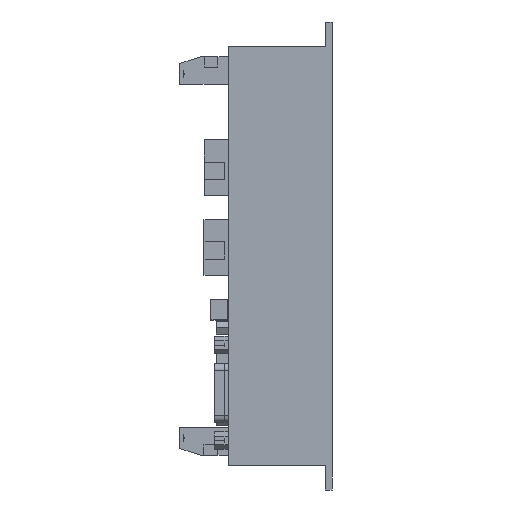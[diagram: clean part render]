
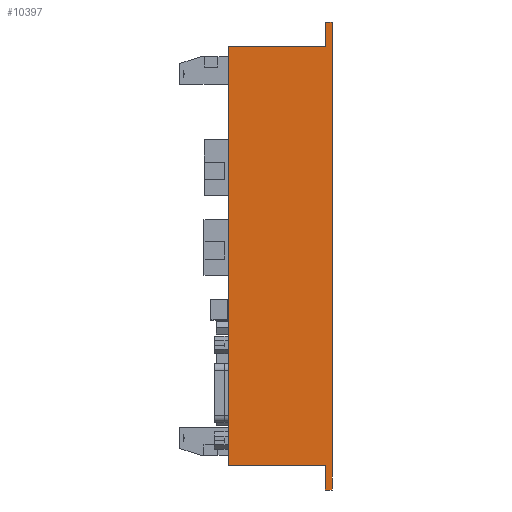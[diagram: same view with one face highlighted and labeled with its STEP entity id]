
A CAD part, left-side view. The second image highlights one B-rep face of the part: STEP entity #10397.
In plain terms, the highlighted planar face has unit normal (-1, 0, 0).
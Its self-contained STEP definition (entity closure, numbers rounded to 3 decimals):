
#60 = FACE_OUTER_BOUND ( 'NONE', #25728, .T. ) ;
#991 = ORIENTED_EDGE ( 'NONE', *, *, #7865, .F. ) ;
#2054 = CARTESIAN_POINT ( 'NONE',  ( 0., 30., 68.703 ) ) ;
#2622 = DIRECTION ( 'NONE',  ( 0., 0., 1. ) ) ;
#3629 = VECTOR ( 'NONE', #9762, 1000. ) ;
#3753 = ORIENTED_EDGE ( 'NONE', *, *, #74189, .F. ) ;
#4471 = DIRECTION ( 'NONE',  ( 0., 1., 0. ) ) ;
#6084 = CARTESIAN_POINT ( 'NONE',  ( 0., 2., -52.297 ) ) ;
#7865 = EDGE_CURVE ( 'NONE', #19587, #60799, #73935, .T. ) ;
#9762 = DIRECTION ( 'NONE',  ( 0., -1., 0. ) ) ;
#10010 = CARTESIAN_POINT ( 'NONE',  ( 0., 30., 68.703 ) ) ;
#10397 = ADVANCED_FACE ( 'NONE', ( #60 ), #12854, .F. ) ;
#10668 = EDGE_CURVE ( 'NONE', #13436, #55992, #63475, .T. ) ;
#12265 = VECTOR ( 'NONE', #17618, 1000. ) ;
#12854 = PLANE ( 'NONE',  #65740 ) ;
#12898 = VERTEX_POINT ( 'NONE', #48987 ) ;
#13206 = VECTOR ( 'NONE', #37851, 1000. ) ;
#13307 = VECTOR ( 'NONE', #2622, 1000. ) ;
#13436 = VERTEX_POINT ( 'NONE', #2054 ) ;
#14317 = CARTESIAN_POINT ( 'NONE',  ( 0., 2., -52.297 ) ) ;
#14566 = DIRECTION ( 'NONE',  ( 0., 1., 0. ) ) ;
#15068 = LINE ( 'NONE', #49552, #13206 ) ;
#15267 = LINE ( 'NONE', #14317, #57791 ) ;
#17618 = DIRECTION ( 'NONE',  ( 0., -1., 0. ) ) ;
#18710 = DIRECTION ( 'NONE',  ( 0., 0., -1. ) ) ;
#19587 = VERTEX_POINT ( 'NONE', #54146 ) ;
#23005 = VERTEX_POINT ( 'NONE', #6084 ) ;
#25728 = EDGE_LOOP ( 'NONE', ( #49735, #63826, #37759, #73403, #29834, #3753, #991, #37979 ) ) ;
#27639 = VECTOR ( 'NONE', #4471, 1000. ) ;
#27695 = LINE ( 'NONE', #46429, #12265 ) ;
#29834 = ORIENTED_EDGE ( 'NONE', *, *, #39655, .F. ) ;
#32308 = LINE ( 'NONE', #40513, #49548 ) ;
#33322 = CARTESIAN_POINT ( 'NONE',  ( 0., 0., -59.297 ) ) ;
#33376 = EDGE_CURVE ( 'NONE', #59054, #13436, #45923, .T. ) ;
#35289 = CARTESIAN_POINT ( 'NONE',  ( 0., 0., 75.703 ) ) ;
#37277 = CARTESIAN_POINT ( 'NONE',  ( 0., 30., -52.297 ) ) ;
#37759 = ORIENTED_EDGE ( 'NONE', *, *, #10668, .F. ) ;
#37851 = DIRECTION ( 'NONE',  ( 0., 0., -1. ) ) ;
#37979 = ORIENTED_EDGE ( 'NONE', *, *, #45133, .F. ) ;
#39655 = EDGE_CURVE ( 'NONE', #23005, #59054, #15267, .T. ) ;
#40513 = CARTESIAN_POINT ( 'NONE',  ( 0., 2., 68.703 ) ) ;
#45133 = EDGE_CURVE ( 'NONE', #67223, #19587, #15068, .T. ) ;
#45809 = LINE ( 'NONE', #46126, #74919 ) ;
#45923 = LINE ( 'NONE', #37277, #13307 ) ;
#46126 = CARTESIAN_POINT ( 'NONE',  ( 0., 2., -59.297 ) ) ;
#46361 = DIRECTION ( 'NONE',  ( 0., 0., 1. ) ) ;
#46429 = CARTESIAN_POINT ( 'NONE',  ( 0., 2., 75.703 ) ) ;
#48987 = CARTESIAN_POINT ( 'NONE',  ( 0., 2., 75.703 ) ) ;
#49548 = VECTOR ( 'NONE', #46361, 1000. ) ;
#49552 = CARTESIAN_POINT ( 'NONE',  ( 0., 0., 75.703 ) ) ;
#49735 = ORIENTED_EDGE ( 'NONE', *, *, #63611, .F. ) ;
#51937 = DIRECTION ( 'NONE',  ( 0., 0., 1. ) ) ;
#53319 = DIRECTION ( 'NONE',  ( 1., 0., 0. ) ) ;
#54146 = CARTESIAN_POINT ( 'NONE',  ( 0., 0., -59.297 ) ) ;
#55992 = VERTEX_POINT ( 'NONE', #56300 ) ;
#56300 = CARTESIAN_POINT ( 'NONE',  ( 0., 2., 68.703 ) ) ;
#57005 = CARTESIAN_POINT ( 'NONE',  ( 0., 30., -52.297 ) ) ;
#57791 = VECTOR ( 'NONE', #14566, 1000. ) ;
#59054 = VERTEX_POINT ( 'NONE', #57005 ) ;
#60298 = EDGE_CURVE ( 'NONE', #55992, #12898, #32308, .T. ) ;
#60799 = VERTEX_POINT ( 'NONE', #64790 ) ;
#63475 = LINE ( 'NONE', #10010, #3629 ) ;
#63611 = EDGE_CURVE ( 'NONE', #12898, #67223, #27695, .T. ) ;
#63826 = ORIENTED_EDGE ( 'NONE', *, *, #60298, .F. ) ;
#64790 = CARTESIAN_POINT ( 'NONE',  ( 0., 2., -59.297 ) ) ;
#65740 = AXIS2_PLACEMENT_3D ( 'NONE', #70656, #53319, #18710 ) ;
#67223 = VERTEX_POINT ( 'NONE', #35289 ) ;
#70656 = CARTESIAN_POINT ( 'NONE',  ( 0., 0., 0. ) ) ;
#73403 = ORIENTED_EDGE ( 'NONE', *, *, #33376, .F. ) ;
#73935 = LINE ( 'NONE', #33322, #27639 ) ;
#74189 = EDGE_CURVE ( 'NONE', #60799, #23005, #45809, .T. ) ;
#74919 = VECTOR ( 'NONE', #51937, 1000. ) ;
